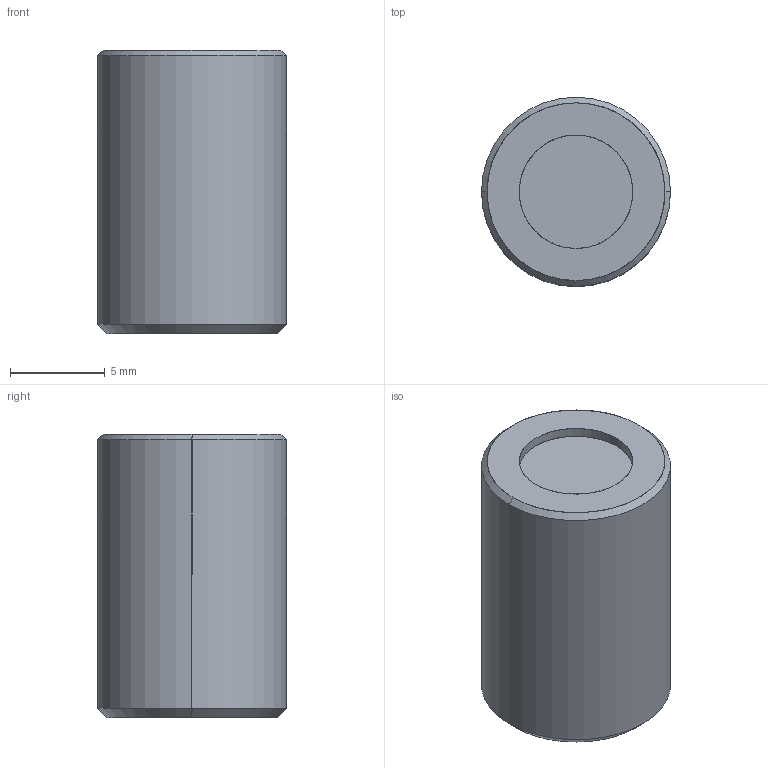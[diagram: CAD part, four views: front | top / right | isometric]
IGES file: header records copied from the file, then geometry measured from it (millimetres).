
Global section: file name: E:\UnigraphicsGraphicData\MISUMI_PRESS-PARTS\IGES\3d_mgn10_00560_r00.igs; native system: NX V5.0; preprocessor: UGS NX IGES V5.0; author: MISUMI; date: 20110105.161419; units: millimetre
Bounding box: 10 x 10 x 15 mm (x, y, z)
Surface area: 919.4 mm2 (no closed solid volume)
Topology: 0 solids, 0 shells, 22 faces, 144 edges, 144 vertices
Faces by surface type: bspline 22
